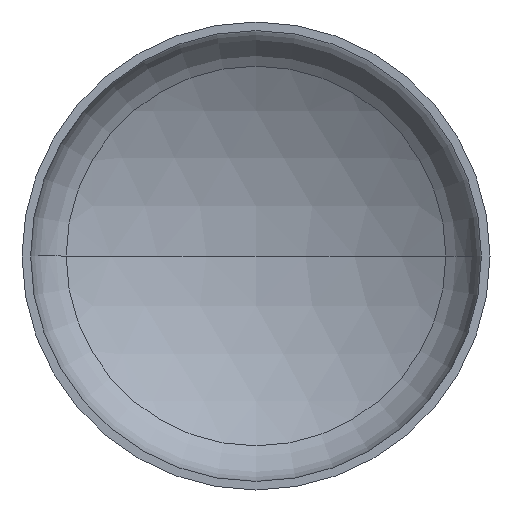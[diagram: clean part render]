
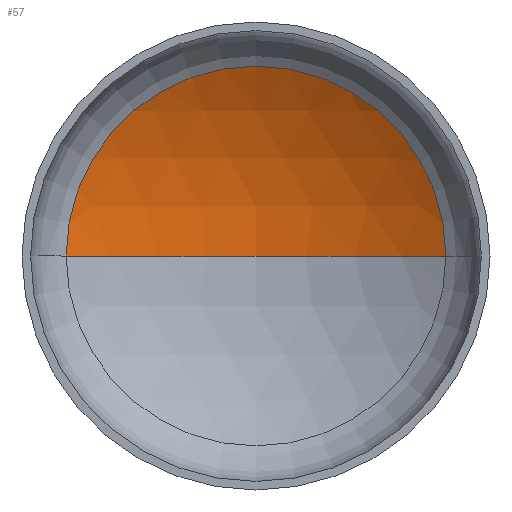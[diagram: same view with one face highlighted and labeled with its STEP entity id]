
A CAD part, front view. The second image highlights one B-rep face of the part: STEP entity #57.
In plain terms, the highlighted spherical face has radius 4000 mm.
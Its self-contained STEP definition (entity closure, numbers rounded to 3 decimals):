
#19 = ORIENTED_EDGE ( 'NONE', *, *, #242, .T. ) ;
#30 = ORIENTED_EDGE ( 'NONE', *, *, #266, .T. ) ;
#48 = VERTEX_POINT ( 'NONE', #323 ) ;
#57 = ADVANCED_FACE ( 'NONE', ( #280 ), #142, .F. ) ;
#58 = EDGE_LOOP ( 'NONE', ( #71, #30, #19 ) ) ;
#60 = AXIS2_PLACEMENT_3D ( 'NONE', #391, #288, #192 ) ;
#63 = AXIS2_PLACEMENT_3D ( 'NONE', #218, #219, #340 ) ;
#70 = AXIS2_PLACEMENT_3D ( 'NONE', #163, #158, #333 ) ;
#71 = ORIENTED_EDGE ( 'NONE', *, *, #275, .F. ) ;
#91 = VERTEX_POINT ( 'NONE', #206 ) ;
#113 = AXIS2_PLACEMENT_3D ( 'NONE', #360, #253, #332 ) ;
#142 = SPHERICAL_SURFACE ( 'NONE', #113, 4000. ) ;
#158 = DIRECTION ( 'NONE',  ( 0., -1., 0. ) ) ;
#163 = CARTESIAN_POINT ( 'NONE',  ( 0., 763.644, 0. ) ) ;
#170 = CARTESIAN_POINT ( 'NONE',  ( -2028.483, 763.644, 0. ) ) ;
#192 = DIRECTION ( 'NONE',  ( -1., 0., 0. ) ) ;
#206 = CARTESIAN_POINT ( 'NONE',  ( 2028.483, 763.644, 0. ) ) ;
#218 = CARTESIAN_POINT ( 'NONE',  ( 0., -2683.856, 0. ) ) ;
#219 = DIRECTION ( 'NONE',  ( 0., 0., 1. ) ) ;
#225 = CIRCLE ( 'NONE', #60, 4000. ) ;
#242 = EDGE_CURVE ( 'NONE', #91, #377, #397, .T. ) ;
#253 = DIRECTION ( 'NONE',  ( 0., 0., -1. ) ) ;
#266 = EDGE_CURVE ( 'NONE', #48, #91, #225, .T. ) ;
#275 = EDGE_CURVE ( 'NONE', #48, #377, #353, .T. ) ;
#280 = FACE_OUTER_BOUND ( 'NONE', #58, .T. ) ;
#288 = DIRECTION ( 'NONE',  ( 0., 0., -1. ) ) ;
#323 = CARTESIAN_POINT ( 'NONE',  ( 0., 1316.144, 0. ) ) ;
#332 = DIRECTION ( 'NONE',  ( -1., 0., 0. ) ) ;
#333 = DIRECTION ( 'NONE',  ( 1., 0., 0. ) ) ;
#340 = DIRECTION ( 'NONE',  ( 1., 0., 0. ) ) ;
#353 = CIRCLE ( 'NONE', #63, 4000. ) ;
#360 = CARTESIAN_POINT ( 'NONE',  ( 0., -2683.856, 0. ) ) ;
#377 = VERTEX_POINT ( 'NONE', #170 ) ;
#391 = CARTESIAN_POINT ( 'NONE',  ( 0., -2683.856, 0. ) ) ;
#397 = CIRCLE ( 'NONE', #70, 2028.483 ) ;
